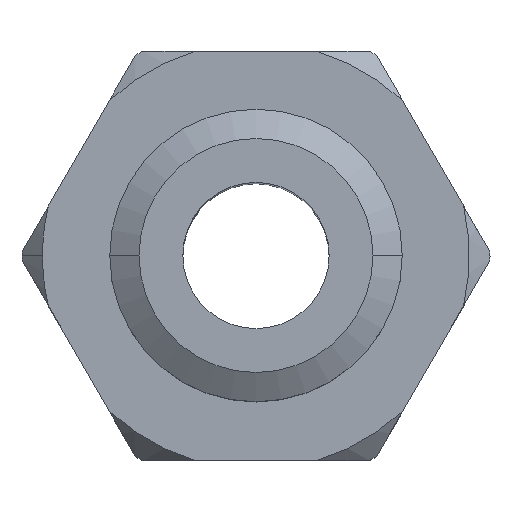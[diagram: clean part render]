
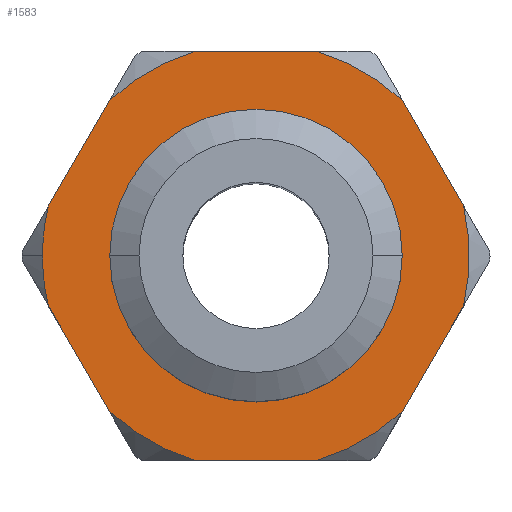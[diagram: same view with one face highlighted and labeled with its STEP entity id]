
A CAD part, top view. The second image highlights one B-rep face of the part: STEP entity #1583.
In plain terms, the highlighted planar face has unit normal (0, 0, 1).
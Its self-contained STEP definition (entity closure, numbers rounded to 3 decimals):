
#13 = CARTESIAN_POINT ( 'NONE',  ( -3.549, -0.853, -7.42 ) ) ;
#29 = ORIENTED_EDGE ( 'NONE', *, *, #1391, .F. ) ;
#46 = CIRCLE ( 'NONE', #373, 3.65 ) ;
#47 = EDGE_CURVE ( 'NONE', #851, #980, #1270, .T. ) ;
#62 = CARTESIAN_POINT ( 'NONE',  ( 0., 0., -7.42 ) ) ;
#65 = EDGE_CURVE ( 'NONE', #1635, #990, #46, .T. ) ;
#67 = DIRECTION ( 'NONE',  ( 0.5, 0.866, 0. ) ) ;
#71 = CARTESIAN_POINT ( 'NONE',  ( 0., 0., -7.42 ) ) ;
#77 = VECTOR ( 'NONE', #67, 1000. ) ;
#79 = CARTESIAN_POINT ( 'NONE',  ( -3.65, 0., -7.42 ) ) ;
#85 = ORIENTED_EDGE ( 'NONE', *, *, #47, .F. ) ;
#108 = CIRCLE ( 'NONE', #1494, 3.65 ) ;
#121 = VERTEX_POINT ( 'NONE', #13 ) ;
#128 = EDGE_LOOP ( 'NONE', ( #85, #737, #805, #568, #265, #431, #466, #1693, #138, #29, #1093, #1794, #631 ) ) ;
#138 = ORIENTED_EDGE ( 'NONE', *, *, #65, .T. ) ;
#192 = VERTEX_POINT ( 'NONE', #1065 ) ;
#198 = VECTOR ( 'NONE', #659, 1000. ) ;
#205 = VERTEX_POINT ( 'NONE', #1499 ) ;
#211 = EDGE_CURVE ( 'NONE', #1578, #192, #1565, .T. ) ;
#233 = DIRECTION ( 'NONE',  ( 1., 0., 0. ) ) ;
#257 = EDGE_CURVE ( 'NONE', #192, #1578, #764, .T. ) ;
#265 = ORIENTED_EDGE ( 'NONE', *, *, #636, .F. ) ;
#266 = EDGE_CURVE ( 'NONE', #1803, #205, #108, .T. ) ;
#280 = PLANE ( 'NONE',  #491 ) ;
#288 = EDGE_CURVE ( 'NONE', #593, #649, #1802, .T. ) ;
#306 = DIRECTION ( 'NONE',  ( 0., 0., 1. ) ) ;
#331 = CARTESIAN_POINT ( 'NONE',  ( 1.036, -3.5, -7.42 ) ) ;
#338 = LINE ( 'NONE', #655, #77 ) ;
#367 = CARTESIAN_POINT ( 'NONE',  ( 0., 0., -7.42 ) ) ;
#369 = VECTOR ( 'NONE', #380, 1000. ) ;
#373 = AXIS2_PLACEMENT_3D ( 'NONE', #1564, #1082, #557 ) ;
#377 = ORIENTED_EDGE ( 'NONE', *, *, #257, .F. ) ;
#380 = DIRECTION ( 'NONE',  ( -1., 0., 0. ) ) ;
#386 = DIRECTION ( 'NONE',  ( 0., 0., 1. ) ) ;
#406 = DIRECTION ( 'NONE',  ( 0., 0., 1. ) ) ;
#418 = VERTEX_POINT ( 'NONE', #1106 ) ;
#431 = ORIENTED_EDGE ( 'NONE', *, *, #288, .T. ) ;
#434 = FACE_OUTER_BOUND ( 'NONE', #128, .T. ) ;
#439 = DIRECTION ( 'NONE',  ( 1., 0., 0. ) ) ;
#448 = CARTESIAN_POINT ( 'NONE',  ( -3.549, 0.853, -7.42 ) ) ;
#466 = ORIENTED_EDGE ( 'NONE', *, *, #1177, .T. ) ;
#467 = CARTESIAN_POINT ( 'NONE',  ( 2.513, 2.647, -7.42 ) ) ;
#491 = AXIS2_PLACEMENT_3D ( 'NONE', #978, #406, #1824 ) ;
#496 = AXIS2_PLACEMENT_3D ( 'NONE', #367, #386, #1053 ) ;
#503 = DIRECTION ( 'NONE',  ( 0., 0., 1. ) ) ;
#516 = DIRECTION ( 'NONE',  ( 1., 0., 0. ) ) ;
#529 = VERTEX_POINT ( 'NONE', #1161 ) ;
#531 = CARTESIAN_POINT ( 'NONE',  ( -1.936, 3.5, -7.42 ) ) ;
#537 = EDGE_CURVE ( 'NONE', #1531, #980, #1834, .T. ) ;
#557 = DIRECTION ( 'NONE',  ( 1., 0., 0. ) ) ;
#560 = FACE_BOUND ( 'NONE', #1323, .T. ) ;
#568 = ORIENTED_EDGE ( 'NONE', *, *, #684, .T. ) ;
#569 = ORIENTED_EDGE ( 'NONE', *, *, #211, .F. ) ;
#593 = VERTEX_POINT ( 'NONE', #448 ) ;
#631 = ORIENTED_EDGE ( 'NONE', *, *, #537, .T. ) ;
#636 = EDGE_CURVE ( 'NONE', #593, #529, #338, .T. ) ;
#639 = EDGE_CURVE ( 'NONE', #1531, #205, #1212, .T. ) ;
#649 = VERTEX_POINT ( 'NONE', #79 ) ;
#655 = CARTESIAN_POINT ( 'NONE',  ( -3.999, 0.073, -7.42 ) ) ;
#659 = DIRECTION ( 'NONE',  ( 1., 0., 0. ) ) ;
#660 = EDGE_CURVE ( 'NONE', #851, #1026, #1407, .T. ) ;
#684 = EDGE_CURVE ( 'NONE', #418, #529, #1102, .T. ) ;
#722 = CARTESIAN_POINT ( 'NONE',  ( 3.549, 0.853, -7.42 ) ) ;
#737 = ORIENTED_EDGE ( 'NONE', *, *, #660, .T. ) ;
#764 = CIRCLE ( 'NONE', #1281, 2. ) ;
#791 = CARTESIAN_POINT ( 'NONE',  ( 3.999, -0.073, -7.42 ) ) ;
#805 = ORIENTED_EDGE ( 'NONE', *, *, #1470, .F. ) ;
#814 = LINE ( 'NONE', #531, #198 ) ;
#841 = CARTESIAN_POINT ( 'NONE',  ( -2.513, -2.647, -7.42 ) ) ;
#844 = DIRECTION ( 'NONE',  ( 0., 0., 1. ) ) ;
#851 = VERTEX_POINT ( 'NONE', #467 ) ;
#919 = DIRECTION ( 'NONE',  ( 0., 0., 1. ) ) ;
#920 = CARTESIAN_POINT ( 'NONE',  ( 1.936, -3.5, -7.42 ) ) ;
#929 = CARTESIAN_POINT ( 'NONE',  ( 0., 0., -7.42 ) ) ;
#973 = CARTESIAN_POINT ( 'NONE',  ( 0., 0., -7.42 ) ) ;
#978 = CARTESIAN_POINT ( 'NONE',  ( 0., 0., -7.42 ) ) ;
#980 = VERTEX_POINT ( 'NONE', #722 ) ;
#990 = VERTEX_POINT ( 'NONE', #1152 ) ;
#1015 = AXIS2_PLACEMENT_3D ( 'NONE', #973, #844, #1396 ) ;
#1026 = VERTEX_POINT ( 'NONE', #1339 ) ;
#1053 = DIRECTION ( 'NONE',  ( 1., 0., 0. ) ) ;
#1065 = CARTESIAN_POINT ( 'NONE',  ( -2., 0., -7.42 ) ) ;
#1082 = DIRECTION ( 'NONE',  ( 0., 0., 1. ) ) ;
#1090 = DIRECTION ( 'NONE',  ( 1., 0., 0. ) ) ;
#1093 = ORIENTED_EDGE ( 'NONE', *, *, #266, .T. ) ;
#1102 = CIRCLE ( 'NONE', #1586, 3.65 ) ;
#1106 = CARTESIAN_POINT ( 'NONE',  ( -1.036, 3.5, -7.42 ) ) ;
#1142 = VECTOR ( 'NONE', #1466, 1000. ) ;
#1152 = CARTESIAN_POINT ( 'NONE',  ( -1.036, -3.5, -7.42 ) ) ;
#1161 = CARTESIAN_POINT ( 'NONE',  ( -2.513, 2.647, -7.42 ) ) ;
#1171 = AXIS2_PLACEMENT_3D ( 'NONE', #1356, #919, #1807 ) ;
#1173 = VECTOR ( 'NONE', #1394, 1000. ) ;
#1177 = EDGE_CURVE ( 'NONE', #649, #121, #1649, .T. ) ;
#1209 = LINE ( 'NONE', #920, #369 ) ;
#1212 = LINE ( 'NONE', #791, #1142 ) ;
#1228 = DIRECTION ( 'NONE',  ( 1., 0., 0. ) ) ;
#1270 = LINE ( 'NONE', #1714, #1173 ) ;
#1281 = AXIS2_PLACEMENT_3D ( 'NONE', #71, #503, #1090 ) ;
#1310 = AXIS2_PLACEMENT_3D ( 'NONE', #929, #1496, #233 ) ;
#1323 = EDGE_LOOP ( 'NONE', ( #377, #569 ) ) ;
#1330 = DIRECTION ( 'NONE',  ( 0., 0., 1. ) ) ;
#1339 = CARTESIAN_POINT ( 'NONE',  ( 1.036, 3.5, -7.42 ) ) ;
#1352 = CARTESIAN_POINT ( 'NONE',  ( 0., 0., -7.42 ) ) ;
#1356 = CARTESIAN_POINT ( 'NONE',  ( 0., 0., -7.42 ) ) ;
#1391 = EDGE_CURVE ( 'NONE', #1803, #990, #1209, .T. ) ;
#1394 = DIRECTION ( 'NONE',  ( 0.5, -0.866, 0. ) ) ;
#1396 = DIRECTION ( 'NONE',  ( 1., 0., 0. ) ) ;
#1407 = CIRCLE ( 'NONE', #1310, 3.65 ) ;
#1437 = AXIS2_PLACEMENT_3D ( 'NONE', #1579, #306, #439 ) ;
#1466 = DIRECTION ( 'NONE',  ( -0.5, -0.866, 0. ) ) ;
#1470 = EDGE_CURVE ( 'NONE', #418, #1026, #814, .T. ) ;
#1494 = AXIS2_PLACEMENT_3D ( 'NONE', #62, #1667, #1228 ) ;
#1496 = DIRECTION ( 'NONE',  ( 0., 0., 1. ) ) ;
#1499 = CARTESIAN_POINT ( 'NONE',  ( 2.513, -2.647, -7.42 ) ) ;
#1529 = CARTESIAN_POINT ( 'NONE',  ( 2., 0., -7.42 ) ) ;
#1531 = VERTEX_POINT ( 'NONE', #1674 ) ;
#1564 = CARTESIAN_POINT ( 'NONE',  ( 0., 0., -7.42 ) ) ;
#1565 = CIRCLE ( 'NONE', #1171, 2. ) ;
#1578 = VERTEX_POINT ( 'NONE', #1529 ) ;
#1579 = CARTESIAN_POINT ( 'NONE',  ( 0., 0., -7.42 ) ) ;
#1580 = CARTESIAN_POINT ( 'NONE',  ( -2.063, -3.427, -7.42 ) ) ;
#1583 = ADVANCED_FACE ( 'NONE', ( #560, #434 ), #280, .T. ) ;
#1586 = AXIS2_PLACEMENT_3D ( 'NONE', #1352, #1330, #516 ) ;
#1595 = VECTOR ( 'NONE', #1619, 1000. ) ;
#1619 = DIRECTION ( 'NONE',  ( -0.5, 0.866, 0. ) ) ;
#1635 = VERTEX_POINT ( 'NONE', #841 ) ;
#1649 = CIRCLE ( 'NONE', #1015, 3.65 ) ;
#1652 = EDGE_CURVE ( 'NONE', #1635, #121, #1730, .T. ) ;
#1667 = DIRECTION ( 'NONE',  ( 0., 0., 1. ) ) ;
#1674 = CARTESIAN_POINT ( 'NONE',  ( 3.549, -0.853, -7.42 ) ) ;
#1693 = ORIENTED_EDGE ( 'NONE', *, *, #1652, .F. ) ;
#1714 = CARTESIAN_POINT ( 'NONE',  ( 2.063, 3.427, -7.42 ) ) ;
#1730 = LINE ( 'NONE', #1580, #1595 ) ;
#1794 = ORIENTED_EDGE ( 'NONE', *, *, #639, .F. ) ;
#1802 = CIRCLE ( 'NONE', #496, 3.65 ) ;
#1803 = VERTEX_POINT ( 'NONE', #331 ) ;
#1807 = DIRECTION ( 'NONE',  ( 1., 0., 0. ) ) ;
#1824 = DIRECTION ( 'NONE',  ( 1., 0., 0. ) ) ;
#1834 = CIRCLE ( 'NONE', #1437, 3.65 ) ;
